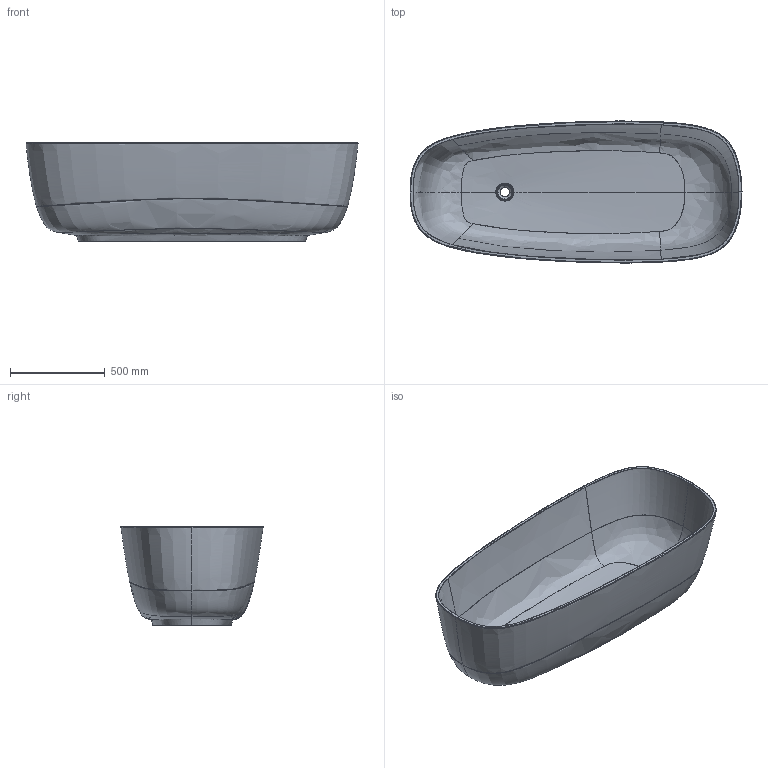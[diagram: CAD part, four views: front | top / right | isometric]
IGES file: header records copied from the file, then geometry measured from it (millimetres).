
Start section: SolidWorks IGES file using analytic representation for surfaces
Global section: file name: C:\Users\Utente; native system: Rhinoceros ( Aug 11 2021 ); preprocessor: Trout Lake IGES 012 Aug 11 2021; date: 220224.164457; units: millimetre
Bounding box: 1749.47 x 748.75 x 520 mm (x, y, z)
Surface area: 5465218.5 mm2 (no closed solid volume)
Topology: 0 solids, 0 shells, 180 faces, 3339 edges, 3337 vertices
Faces by surface type: bspline 180
